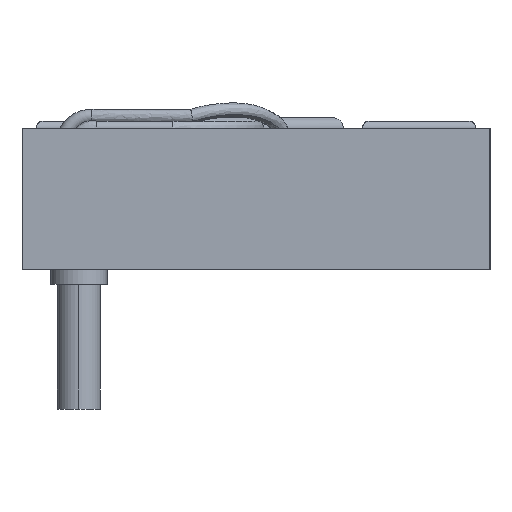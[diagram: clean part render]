
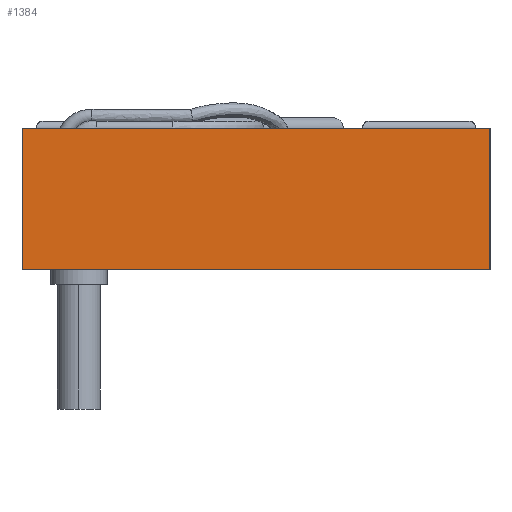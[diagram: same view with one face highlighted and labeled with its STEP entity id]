
A CAD part, left-side view. The second image highlights one B-rep face of the part: STEP entity #1384.
In plain terms, the highlighted planar face has unit normal (-1, 0, 0).
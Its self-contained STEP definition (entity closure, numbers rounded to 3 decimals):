
#131 = CARTESIAN_POINT ( 'NONE',  ( -55., 16.5, 10. ) ) ;
#252 = CARTESIAN_POINT ( 'NONE',  ( -55., -16.5, 10. ) ) ;
#327 = ORIENTED_EDGE ( 'NONE', *, *, #1454, .T. ) ;
#803 = FACE_OUTER_BOUND ( 'NONE', #5952, .T. ) ;
#1167 = VERTEX_POINT ( 'NONE', #4470 ) ;
#1182 = ORIENTED_EDGE ( 'NONE', *, *, #3117, .F. ) ;
#1230 = CARTESIAN_POINT ( 'NONE',  ( -55., -16.5, 10. ) ) ;
#1307 = LINE ( 'NONE', #1230, #2340 ) ;
#1384 = ADVANCED_FACE ( 'NONE', ( #803 ), #2995, .F. ) ;
#1454 = EDGE_CURVE ( 'NONE', #5241, #1167, #6861, .T. ) ;
#1508 = CARTESIAN_POINT ( 'NONE',  ( -55., -16.5, 10. ) ) ;
#1743 = DIRECTION ( 'NONE',  ( 0., 0., -1. ) ) ;
#1940 = CARTESIAN_POINT ( 'NONE',  ( -55., -16.5, 0. ) ) ;
#2017 = AXIS2_PLACEMENT_3D ( 'NONE', #252, #4648, #1743 ) ;
#2340 = VECTOR ( 'NONE', #4504, 1000. ) ;
#2409 = LINE ( 'NONE', #1508, #3628 ) ;
#2995 = PLANE ( 'NONE',  #2017 ) ;
#3110 = ORIENTED_EDGE ( 'NONE', *, *, #6462, .T. ) ;
#3117 = EDGE_CURVE ( 'NONE', #4902, #5020, #2409, .T. ) ;
#3200 = CARTESIAN_POINT ( 'NONE',  ( -55., -16.5, 10. ) ) ;
#3628 = VECTOR ( 'NONE', #5174, 1000. ) ;
#3754 = LINE ( 'NONE', #5954, #4855 ) ;
#3950 = CARTESIAN_POINT ( 'NONE',  ( -55., 16.5, 0. ) ) ;
#4170 = DIRECTION ( 'NONE',  ( 0., -1., 0. ) ) ;
#4470 = CARTESIAN_POINT ( 'NONE',  ( -55., -16.5, 0. ) ) ;
#4504 = DIRECTION ( 'NONE',  ( 0., 0., -1. ) ) ;
#4648 = DIRECTION ( 'NONE',  ( 1., 0., 0. ) ) ;
#4664 = VECTOR ( 'NONE', #4170, 1000. ) ;
#4731 = DIRECTION ( 'NONE',  ( 0., 0., -1. ) ) ;
#4855 = VECTOR ( 'NONE', #4731, 1000. ) ;
#4902 = VERTEX_POINT ( 'NONE', #131 ) ;
#5020 = VERTEX_POINT ( 'NONE', #3200 ) ;
#5174 = DIRECTION ( 'NONE',  ( 0., -1., 0. ) ) ;
#5241 = VERTEX_POINT ( 'NONE', #3950 ) ;
#5388 = EDGE_CURVE ( 'NONE', #5020, #1167, #1307, .T. ) ;
#5952 = EDGE_LOOP ( 'NONE', ( #327, #6070, #1182, #3110 ) ) ;
#5954 = CARTESIAN_POINT ( 'NONE',  ( -55., 16.5, 10. ) ) ;
#6070 = ORIENTED_EDGE ( 'NONE', *, *, #5388, .F. ) ;
#6462 = EDGE_CURVE ( 'NONE', #4902, #5241, #3754, .T. ) ;
#6861 = LINE ( 'NONE', #1940, #4664 ) ;
